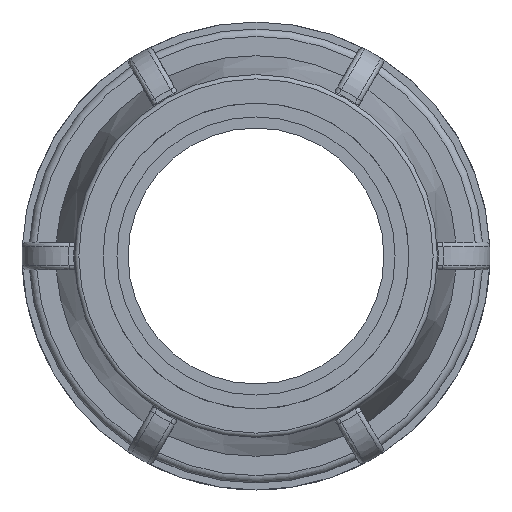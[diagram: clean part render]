
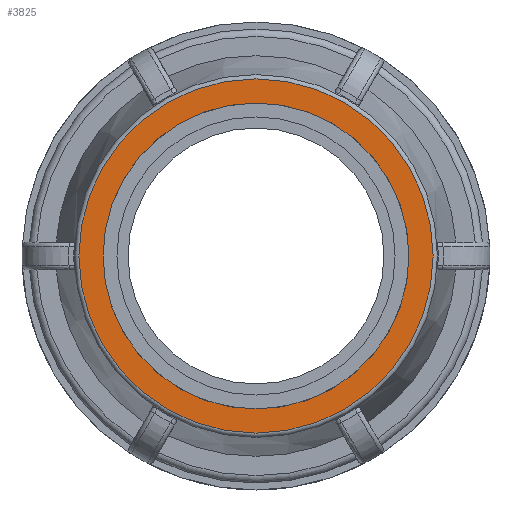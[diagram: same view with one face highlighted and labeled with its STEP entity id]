
A CAD part, left-side view. The second image highlights one B-rep face of the part: STEP entity #3825.
In plain terms, the highlighted planar face has unit normal (-1, 0, 0).
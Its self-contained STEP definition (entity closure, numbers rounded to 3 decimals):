
#204=FACE_BOUND('',#687,.T.);
#269=PLANE('',#4188);
#439=FACE_OUTER_BOUND('',#686,.T.);
#686=EDGE_LOOP('',(#3117));
#687=EDGE_LOOP('',(#3118));
#1388=CIRCLE('',#4185,40.111);
#1390=CIRCLE('',#4189,34.65);
#1707=VERTEX_POINT('',#6910);
#1709=VERTEX_POINT('',#6916);
#2204=EDGE_CURVE('',#1707,#1707,#1388,.T.);
#2206=EDGE_CURVE('',#1709,#1709,#1390,.T.);
#3117=ORIENTED_EDGE('',*,*,#2204,.F.);
#3118=ORIENTED_EDGE('',*,*,#2206,.T.);
#3825=ADVANCED_FACE('',(#439,#204),#269,.F.);
#4185=AXIS2_PLACEMENT_3D('',#6911,#5033,#5034);
#4188=AXIS2_PLACEMENT_3D('',#6915,#5039,#5040);
#4189=AXIS2_PLACEMENT_3D('',#6917,#5041,#5042);
#5033=DIRECTION('center_axis',(1.,0.,0.));
#5034=DIRECTION('ref_axis',(0.,-1.,0.));
#5039=DIRECTION('center_axis',(1.,0.,0.));
#5040=DIRECTION('ref_axis',(0.,0.,-1.));
#5041=DIRECTION('center_axis',(1.,0.,0.));
#5042=DIRECTION('ref_axis',(0.,0.,-1.));
#6910=CARTESIAN_POINT('',(-83.5,40.111,0.));
#6911=CARTESIAN_POINT('Origin',(-83.5,0.,0.));
#6915=CARTESIAN_POINT('Origin',(-83.5,34.65,0.));
#6916=CARTESIAN_POINT('',(-83.5,34.65,0.));
#6917=CARTESIAN_POINT('Origin',(-83.5,0.,0.));
